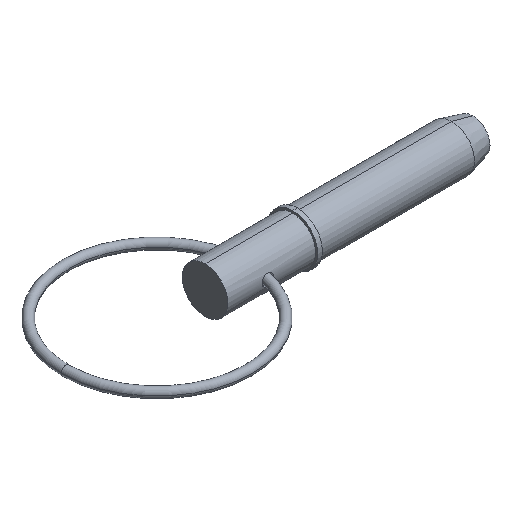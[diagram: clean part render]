
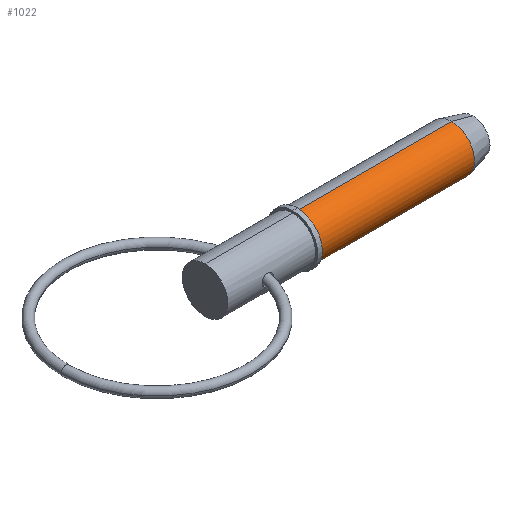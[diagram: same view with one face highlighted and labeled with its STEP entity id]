
A CAD part, isometric view. The second image highlights one B-rep face of the part: STEP entity #1022.
In plain terms, the highlighted cylindrical face has radius 6.35 mm (diameter 12.7 mm), a partial arc.
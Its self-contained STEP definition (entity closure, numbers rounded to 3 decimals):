
#14 = CYLINDRICAL_SURFACE ( 'NONE', #779, 6.35 ) ;
#19 = ORIENTED_EDGE ( 'NONE', *, *, #927, .F. ) ;
#49 = DIRECTION ( 'NONE',  ( 1., 0., 0. ) ) ;
#61 = EDGE_CURVE ( 'NONE', #557, #67, #828, .T. ) ;
#67 = VERTEX_POINT ( 'NONE', #432 ) ;
#151 = EDGE_LOOP ( 'NONE', ( #808, #706, #737, #19 ) ) ;
#177 = CARTESIAN_POINT ( 'NONE',  ( 0., 0., -6.35 ) ) ;
#188 = AXIS2_PLACEMENT_3D ( 'NONE', #607, #49, #366 ) ;
#218 = CARTESIAN_POINT ( 'NONE',  ( 25.7, 0., 6.35 ) ) ;
#281 = EDGE_CURVE ( 'NONE', #648, #328, #806, .T. ) ;
#304 = DIRECTION ( 'NONE',  ( 1., 0., 0. ) ) ;
#328 = VERTEX_POINT ( 'NONE', #965 ) ;
#360 = DIRECTION ( 'NONE',  ( 1., 0., 0. ) ) ;
#366 = DIRECTION ( 'NONE',  ( 0., 0., -1. ) ) ;
#384 = VECTOR ( 'NONE', #990, 1000. ) ;
#432 = CARTESIAN_POINT ( 'NONE',  ( 68.675, 0., -6.35 ) ) ;
#438 = CIRCLE ( 'NONE', #991, 6.35 ) ;
#482 = DIRECTION ( 'NONE',  ( 1., 0., 0. ) ) ;
#557 = VERTEX_POINT ( 'NONE', #857 ) ;
#562 = CARTESIAN_POINT ( 'NONE',  ( 0., 0., 6.35 ) ) ;
#607 = CARTESIAN_POINT ( 'NONE',  ( 25.7, 0., 0. ) ) ;
#621 = EDGE_CURVE ( 'NONE', #648, #557, #745, .T. ) ;
#648 = VERTEX_POINT ( 'NONE', #218 ) ;
#662 = CARTESIAN_POINT ( 'NONE',  ( 68.675, 0., 0. ) ) ;
#706 = ORIENTED_EDGE ( 'NONE', *, *, #621, .T. ) ;
#731 = FACE_OUTER_BOUND ( 'NONE', #151, .T. ) ;
#737 = ORIENTED_EDGE ( 'NONE', *, *, #61, .T. ) ;
#745 = CIRCLE ( 'NONE', #188, 6.35 ) ;
#779 = AXIS2_PLACEMENT_3D ( 'NONE', #1011, #360, #939 ) ;
#806 = LINE ( 'NONE', #562, #989 ) ;
#808 = ORIENTED_EDGE ( 'NONE', *, *, #281, .F. ) ;
#828 = LINE ( 'NONE', #177, #384 ) ;
#857 = CARTESIAN_POINT ( 'NONE',  ( 25.7, 0., -6.35 ) ) ;
#897 = DIRECTION ( 'NONE',  ( 0., 0., -1. ) ) ;
#927 = EDGE_CURVE ( 'NONE', #328, #67, #438, .T. ) ;
#939 = DIRECTION ( 'NONE',  ( 0., 0., -1. ) ) ;
#965 = CARTESIAN_POINT ( 'NONE',  ( 68.675, 0., 6.35 ) ) ;
#989 = VECTOR ( 'NONE', #304, 1000. ) ;
#990 = DIRECTION ( 'NONE',  ( 1., 0., 0. ) ) ;
#991 = AXIS2_PLACEMENT_3D ( 'NONE', #662, #482, #897 ) ;
#1011 = CARTESIAN_POINT ( 'NONE',  ( 0., 0., 0. ) ) ;
#1022 = ADVANCED_FACE ( 'NONE', ( #731 ), #14, .T. ) ;
